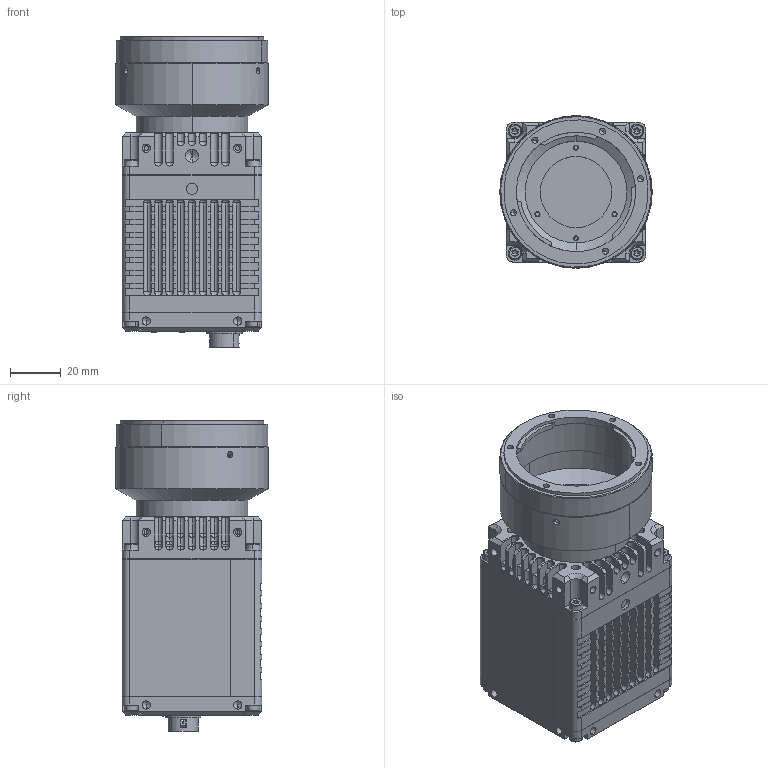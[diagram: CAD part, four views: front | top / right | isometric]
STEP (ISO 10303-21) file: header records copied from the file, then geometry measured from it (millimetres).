
FILE_DESCRIPTION (( 'STEP AP214' ), '1' );
FILE_NAME ('4068001_Goldeye G-032 SWIR TEC1 F-Mount (F-Mount Chunghwa 640x512).STEP', '2023-07-24T14:17:05', ( '' ), ( '' ), 'SwSTEP 2.0', 'SolidWorks 2021', '' );
FILE_SCHEMA (( 'AUTOMOTIVE_DESIGN' ));
Length unit declared in the file: millimetre
Products named in the file (1): 4068001_Goldeye G-032 SWIR TEC1 F-Mount (F-Mount Chunghwa 640x512)
Bounding box: 60 x 60 x 122.14 mm (x, y, z)
Surface area: 98791.5 mm2 (no closed solid volume)
Topology: 0 solids, 58 shells, 3910 faces, 10342 edges, 6495 vertices
Faces by surface type: plane 1760, cylinder 1312, bspline 385, cone 288, sphere 98, torus 67
Entity records: 174631 total; most frequent: CARTESIAN_POINT 36567, ORIENTED_EDGE 20240, DIRECTION 18754, EDGE_CURVE 10120, VERTEX_POINT 6481, LINE 6306, VECTOR 6306, AXIS2_PLACEMENT_3D 6224
